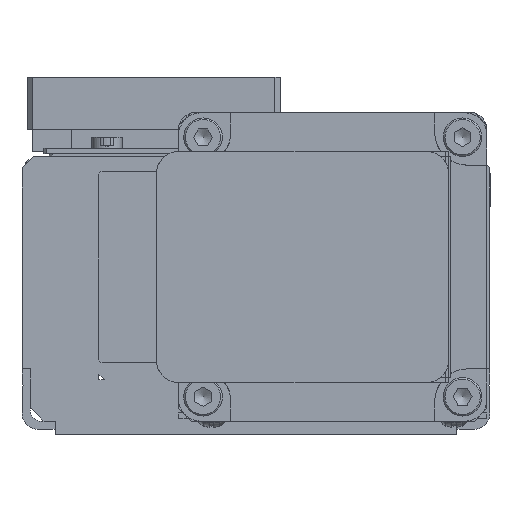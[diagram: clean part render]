
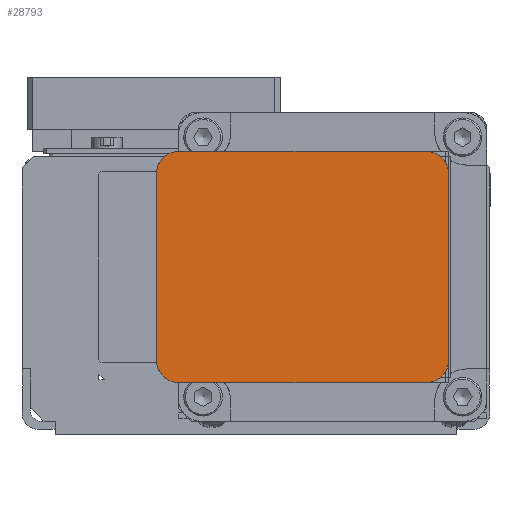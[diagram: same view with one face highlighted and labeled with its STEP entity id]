
A CAD part, left-side view. The second image highlights one B-rep face of the part: STEP entity #28793.
In plain terms, the highlighted planar face has unit normal (-1, 0, 0).
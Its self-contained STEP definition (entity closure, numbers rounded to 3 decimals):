
#28536=CARTESIAN_POINT('',(-161.5,-30.95,51.5));
#28537=VERTEX_POINT('',#28536);
#28544=CARTESIAN_POINT('',(-161.5,-34.95,47.5));
#28545=VERTEX_POINT('',#28544);
#28546=CARTESIAN_POINT('',(-161.5,-30.95,47.5));
#28547=DIRECTION('',(-1.0,0.0,0.0));
#28548=DIRECTION('',(0.0,-1.0,0.0));
#28549=AXIS2_PLACEMENT_3D('',#28546,#28547,#28548);
#28550=CIRCLE('',#28549,4.);
#28551=EDGE_CURVE('',#28545,#28537,#28550,.T.);
#28624=CARTESIAN_POINT('',(-161.5,-34.95,13.5));
#28625=VERTEX_POINT('',#28624);
#28632=CARTESIAN_POINT('',(-161.5,-30.95,9.5));
#28633=VERTEX_POINT('',#28632);
#28634=CARTESIAN_POINT('',(-161.5,-30.95,13.5));
#28635=DIRECTION('',(-1.0,0.0,0.0));
#28636=DIRECTION('',(0.0,0.0,-1.0));
#28637=AXIS2_PLACEMENT_3D('',#28634,#28635,#28636);
#28638=CIRCLE('',#28637,4.);
#28639=EDGE_CURVE('',#28633,#28625,#28638,.T.);
#28669=CARTESIAN_POINT('',(-161.5,18.05,47.5));
#28670=VERTEX_POINT('',#28669);
#28677=CARTESIAN_POINT('',(-161.5,14.05,51.5));
#28678=VERTEX_POINT('',#28677);
#28679=CARTESIAN_POINT('',(-161.5,14.05,47.5));
#28680=DIRECTION('',(-1.0,0.0,0.0));
#28681=DIRECTION('',(0.0,0.0,1.0));
#28682=AXIS2_PLACEMENT_3D('',#28679,#28680,#28681);
#28683=CIRCLE('',#28682,4.);
#28684=EDGE_CURVE('',#28678,#28670,#28683,.T.);
#28732=CARTESIAN_POINT('',(-161.5,14.05,9.5));
#28733=VERTEX_POINT('',#28732);
#28740=CARTESIAN_POINT('',(-161.5,18.05,13.5));
#28741=VERTEX_POINT('',#28740);
#28742=CARTESIAN_POINT('',(-161.5,14.05,13.5));
#28743=DIRECTION('',(-1.0,0.0,0.0));
#28744=DIRECTION('',(0.0,1.0,0.0));
#28745=AXIS2_PLACEMENT_3D('',#28742,#28743,#28744);
#28746=CIRCLE('',#28745,4.);
#28747=EDGE_CURVE('',#28741,#28733,#28746,.T.);
#28758=CARTESIAN_POINT('',(-161.5,18.05,30.5));
#28759=DIRECTION('',(-1.0,0.0,0.0));
#28760=DIRECTION('',(0.0,1.0,0.0));
#28761=AXIS2_PLACEMENT_3D('',#28758,#28759,#28760);
#28762=PLANE('',#28761);
#28763=ORIENTED_EDGE('',*,*,#28551,.T.);
#28764=CARTESIAN_POINT('',(-161.5,-30.95,51.5));
#28765=DIRECTION('',(0.0,1.0,0.0));
#28766=VECTOR('',#28765,45.0);
#28767=LINE('',#28764,#28766);
#28768=EDGE_CURVE('',#28537,#28678,#28767,.T.);
#28769=ORIENTED_EDGE('',*,*,#28768,.T.);
#28770=ORIENTED_EDGE('',*,*,#28684,.T.);
#28771=CARTESIAN_POINT('',(-161.5,18.05,13.5));
#28772=DIRECTION('',(0.0,0.0,1.0));
#28773=VECTOR('',#28772,34.0);
#28774=LINE('',#28771,#28773);
#28775=EDGE_CURVE('',#28741,#28670,#28774,.T.);
#28776=ORIENTED_EDGE('',*,*,#28775,.F.);
#28777=ORIENTED_EDGE('',*,*,#28747,.T.);
#28778=CARTESIAN_POINT('',(-161.5,14.05,9.5));
#28779=DIRECTION('',(0.0,-1.0,0.0));
#28780=VECTOR('',#28779,45.0);
#28781=LINE('',#28778,#28780);
#28782=EDGE_CURVE('',#28733,#28633,#28781,.T.);
#28783=ORIENTED_EDGE('',*,*,#28782,.T.);
#28784=ORIENTED_EDGE('',*,*,#28639,.T.);
#28785=CARTESIAN_POINT('',(-161.5,-34.95,47.5));
#28786=DIRECTION('',(0.0,0.0,-1.0));
#28787=VECTOR('',#28786,34.0);
#28788=LINE('',#28785,#28787);
#28789=EDGE_CURVE('',#28545,#28625,#28788,.T.);
#28790=ORIENTED_EDGE('',*,*,#28789,.F.);
#28791=EDGE_LOOP('',(#28763,#28769,#28770,#28776,#28777,#28783,#28784,#28790));
#28792=FACE_OUTER_BOUND('',#28791,.T.);
#28793=ADVANCED_FACE('',(#28792),#28762,.T.);
